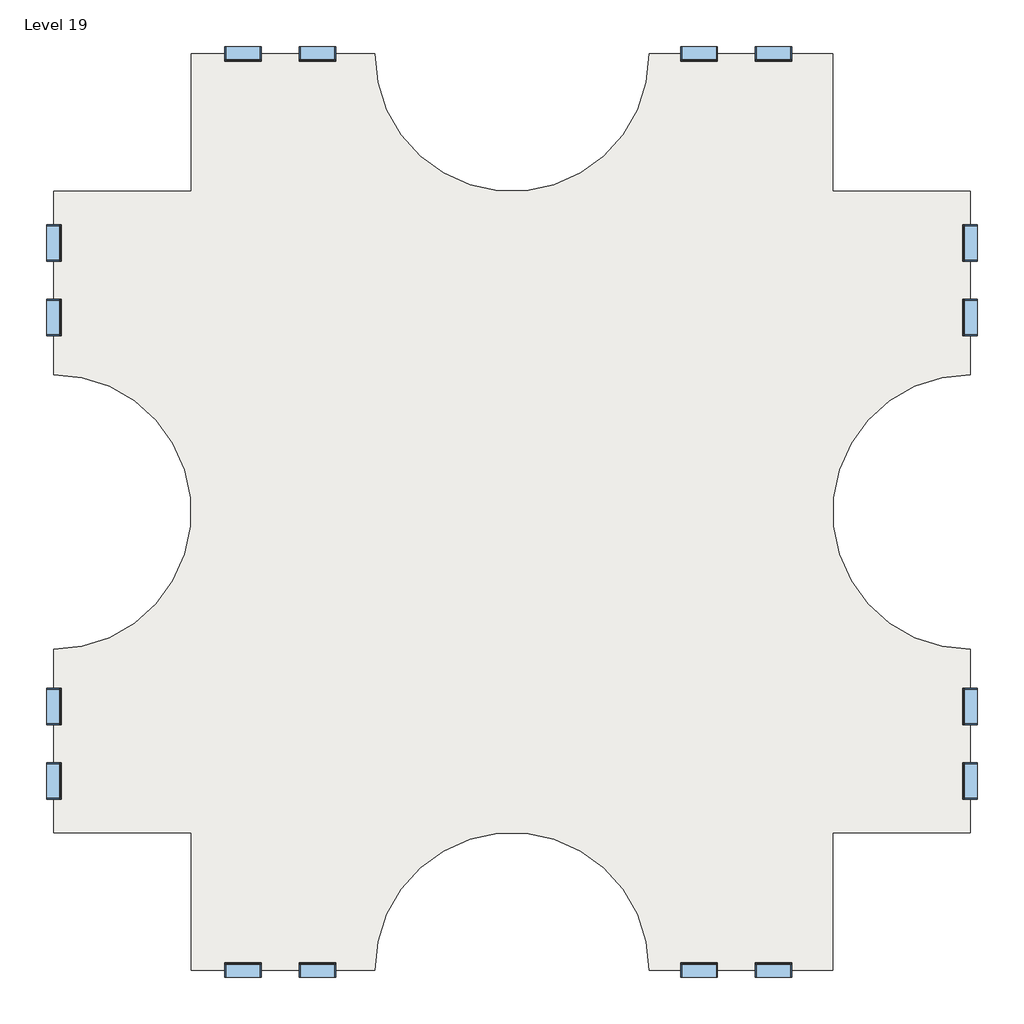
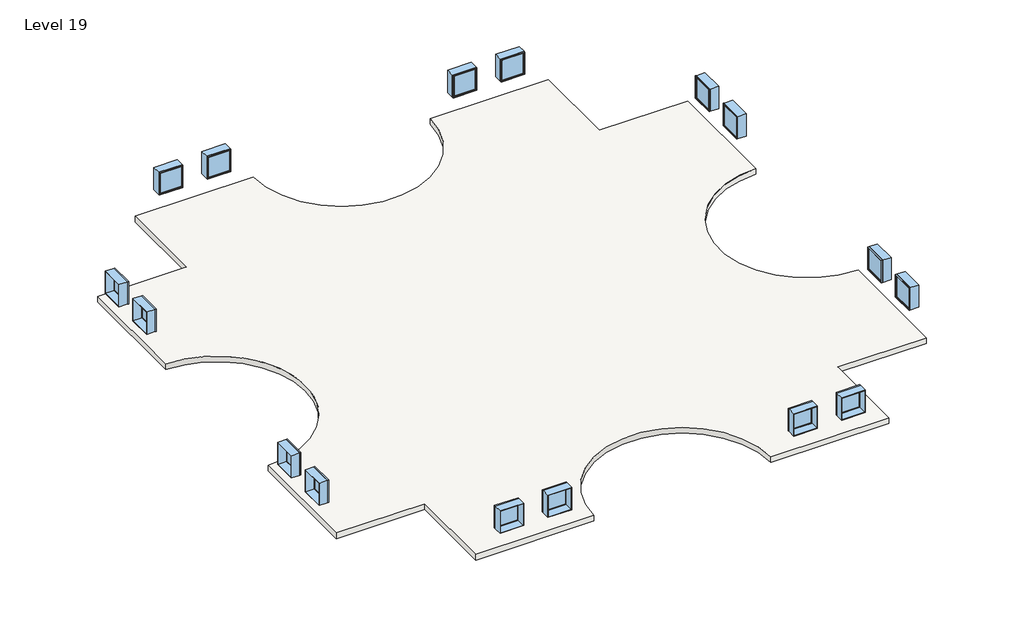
# One storey: 16 windows, 2 slabs.
"""IFC4 building model written with IfcOpenShell, lengths in millimetres."""

import ifcopenshell
import ifcopenshell.guid

model = None  # the IFC model being written
_history = None  # IfcOwnerHistory: only IFC2X3 demands one
_inside = {}  # id of a spatial element -> (the spatial element, [elements in it])
_under = {}  # id of a project, library or spatial element -> (it, [spatial elements below it])
_declared = {}  # id of a project -> (the project, [libraries it declares])
_typed = {}  # id of a type object -> (the type object, [elements of that type])
_made_of = {}  # id of a material, layer set ... -> (it, [elements and type objects made of it])


def new_model(schema):
    """Start an empty IFC model of exactly this schema.

    Asked for "IFC4X3", IfcOpenShell would pick the latest addendum, in which some entities
    have other attributes; the version numbers below select the first issue.
    IFC2X3 requires an IfcOwnerHistory on every rooted entity: one is made here for all.
    """
    global model, _history
    if schema == "IFC4X3":
        model = ifcopenshell.file(schema_version=(4, 3, 0, 0))
    else:
        model = ifcopenshell.file(schema=schema)
    _inside.clear()
    _under.clear()
    _declared.clear()
    _typed.clear()
    _made_of.clear()
    _history = None
    if model.schema == "IFC2X3":
        org = make("IfcOrganization", Name="unknown")
        user = make(
            "IfcPersonAndOrganization",
            ThePerson=make("IfcPerson", FamilyName="unknown"),
            TheOrganization=org,
        )
        app = make(
            "IfcApplication",
            ApplicationDeveloper=org,
            Version="unknown",
            ApplicationFullName="unknown",
            ApplicationIdentifier="unknown",
        )
        _history = make(
            "IfcOwnerHistory",
            OwningUser=user,
            OwningApplication=app,
            ChangeAction="ADDED",
            CreationDate=0,
        )
    return model


def make(cls, **values):
    """One entity of the class cls with the attributes given. An attribute that is None is left unset."""
    return model.create_entity(
        cls, **{name: value for name, value in values.items() if value is not None}
    )


def rooted(cls, **values):
    """An entity with a GlobalId (a new one), such as an element, a storey or a relation."""
    return make(cls, GlobalId=ifcopenshell.guid.new(), OwnerHistory=_history, **values)


def si_unit(unit_type, name, prefix=None):
    """IfcSIUnit, for example si_unit("LENGTHUNIT", "METRE", prefix="MILLI")."""
    return make("IfcSIUnit", UnitType=unit_type, Prefix=prefix, Name=name)


def assignment(units):
    """IfcUnitAssignment: the units of a project."""
    return None if units is None else make("IfcUnitAssignment", Units=units)


def point(xyz):
    """IfcCartesianPoint."""
    return None if xyz is None else make("IfcCartesianPoint", Coordinates=xyz)


def direction(xyz):
    """IfcDirection."""
    return None if xyz is None else make("IfcDirection", DirectionRatios=xyz)


def frame(location, z_axis=None, x_axis=None):
    """IfcAxis2Placement3D, a coordinate frame: its origin and axes. An axis left out is left unset."""
    return make(
        "IfcAxis2Placement3D",
        Location=point(location),
        Axis=direction(z_axis),
        RefDirection=direction(x_axis),
    )


def frame_2d(location, x_axis=None):
    """IfcAxis2Placement2D, a coordinate frame in the plane: its origin and x axis."""
    return make(
        "IfcAxis2Placement2D", Location=point(location), RefDirection=direction(x_axis)
    )


def origin():
    """The frame at (0, 0, 0) with its axes left unset."""
    return frame((0.0, 0.0, 0.0))


def place(relative_to, where):
    """IfcLocalPlacement: puts the frame where relative to a parent placement (None: the world)."""
    return make(
        "IfcLocalPlacement", PlacementRelTo=relative_to, RelativePlacement=where
    )


def context(
    kind, dimensions, precision=None, world=None, true_north=None, identifier=None
):
    """IfcGeometricRepresentationContext, for example the 3D "Model" context."""
    return make(
        "IfcGeometricRepresentationContext",
        ContextIdentifier=identifier,
        ContextType=kind,
        CoordinateSpaceDimension=dimensions,
        Precision=precision,
        WorldCoordinateSystem=world,
        TrueNorth=true_north,
    )


def project(units=None, contexts=None):
    """IfcProject with its units and contexts."""
    return rooted(
        "IfcProject",
        Name="project",
        RepresentationContexts=contexts,
        UnitsInContext=assignment(units),
    )


def spatial(cls, under=None, at=None, **own):
    """A site, building, storey or space (cls), placed at a placement, below another one or the project."""
    s = rooted(cls, ObjectPlacement=at, **own)
    if under is not None:
        _under.setdefault(under.id(), (under, []))[1].append(s)
    return s


def polyline(points):
    """IfcPolyline through the points."""
    return make("IfcPolyline", Points=[point(p) for p in points])


def circle_curve(where, radius):
    """IfcCircle in the frame where."""
    return make("IfcCircle", Position=where, Radius=radius)


def trimmed(basis, trim1, trim2, sense, master):
    """IfcTrimmedCurve: the piece of a basis curve between two trims."""
    return make(
        "IfcTrimmedCurve",
        BasisCurve=basis,
        Trim1=trim1,
        Trim2=trim2,
        SenseAgreement=sense,
        MasterRepresentation=master,
    )


def segment(curve, same_sense, transition):
    """IfcCompositeCurveSegment."""
    return make(
        "IfcCompositeCurveSegment",
        Transition=transition,
        SameSense=same_sense,
        ParentCurve=curve,
    )


def composite_curve(segments, self_intersect=None):
    """IfcCompositeCurve: segments joined end to end."""
    return make("IfcCompositeCurve", Segments=segments, SelfIntersect=self_intersect)


def outline(outer, holes=None, kind="AREA"):
    """IfcArbitraryClosedProfileDef: a profile drawn as a closed curve; with holes, ...WithVoids."""
    if holes is None:
        return make("IfcArbitraryClosedProfileDef", ProfileType=kind, OuterCurve=outer)
    return make(
        "IfcArbitraryProfileDefWithVoids",
        ProfileType=kind,
        OuterCurve=outer,
        InnerCurves=holes,
    )


def extrude(swept, where, along, depth):
    """IfcExtrudedAreaSolid: the profile swept, set in the frame where, extruded along a direction by depth."""
    return make(
        "IfcExtrudedAreaSolid",
        SweptArea=swept,
        Position=where,
        ExtrudedDirection=direction(along),
        Depth=depth,
    )


def shape(context_of_items, identifier, shape_type, items):
    """IfcShapeRepresentation: the items that make up one representation, for example the "Body"."""
    return make(
        "IfcShapeRepresentation",
        ContextOfItems=context_of_items,
        RepresentationIdentifier=identifier,
        RepresentationType=shape_type,
        Items=items,
    )


def source(mapping_origin, context_of_items, identifier, shape_type, items):
    """IfcRepresentationMap: a shape defined once, which mapped items show again and again."""
    return make(
        "IfcRepresentationMap",
        MappingOrigin=mapping_origin,
        MappedRepresentation=shape(context_of_items, identifier, shape_type, items),
    )


def transform(
    local_origin,
    x_axis=None,
    y_axis=None,
    z_axis=None,
    scale=None,
    scale2=None,
    scale3=None,
    uniform=True,
):
    """IfcCartesianTransformationOperator3D, or its non-uniform kind. x_axis, y_axis, z_axis: its Axis1, 2, 3."""
    if uniform:
        return make(
            "IfcCartesianTransformationOperator3D",
            Axis1=direction(x_axis),
            Axis2=direction(y_axis),
            LocalOrigin=point(local_origin),
            Scale=scale,
            Axis3=direction(z_axis),
        )
    return make(
        "IfcCartesianTransformationOperator3DnonUniform",
        Axis1=direction(x_axis),
        Axis2=direction(y_axis),
        LocalOrigin=point(local_origin),
        Scale=scale,
        Axis3=direction(z_axis),
        Scale2=scale2,
        Scale3=scale3,
    )


def mapped(mapping_source, mapping_target):
    """IfcMappedItem: shows the shape of a source again, moved by a transform."""
    return make(
        "IfcMappedItem", MappingSource=mapping_source, MappingTarget=mapping_target
    )


def made_of(thing, what):
    """Note that an element or type object is made of a material, layer set ...; save() writes the relation."""
    if what is not None:
        _made_of.setdefault(what.id(), (what, []))[1].append(thing)
    return thing


def element(
    cls,
    number,
    at=None,
    inside=None,
    cuts=None,
    type_object=None,
    material=None,
    context=None,
    identifier="Body",
    shape_type=None,
    held_by="IfcProductDefinitionShape",
    body=None,
    shapes=None,
    **own,
):
    """One element of the class cls, such as IfcWall. Its Tag is "e" and its number.

    at: its placement. inside: the storey or other place that contains it. cuts: it is an
    opening in that element (IfcRelVoidsElement). A single representation is given by context,
    identifier, shape_type and body (its items); several are given by shapes. held_by: the class
    of the entity that holds the representations. save() writes the other relations.
    """
    e = rooted(cls, Tag="e%d" % number, ObjectPlacement=at, **own)
    if body is not None:
        shapes = [shape(context, identifier, shape_type, body)]
    if shapes is not None:
        e.Representation = make(held_by, Representations=shapes)
    if inside is not None:
        _inside.setdefault(inside.id(), (inside, []))[1].append(e)
    if cuts is not None:
        rooted(
            "IfcRelVoidsElement", RelatingBuildingElement=cuts, RelatedOpeningElement=e
        )
    if type_object is not None:
        _typed.setdefault(type_object.id(), (type_object, []))[1].append(e)
    return made_of(e, material)


def aggregate(whole, parts):
    """IfcRelAggregates: a whole, such as a stair, and the parts it consists of."""
    return rooted("IfcRelAggregates", RelatingObject=whole, RelatedObjects=parts)


def save(model, path):
    """Write the relations noted so far, then the file.

    IfcRelAggregates (storeys below a building ...), IfcRelContainedInSpatialStructure (elements
    in a storey), IfcRelDefinesByType, IfcRelAssociatesMaterial and IfcRelDeclares: one each for
    every whole, place, type object, material and project.
    """
    for whole, parts in _under.values():
        aggregate(whole, parts)
    for where, things in _inside.values():
        rooted(
            "IfcRelContainedInSpatialStructure",
            RelatedElements=things,
            RelatingStructure=where,
        )
    for kind, things in _typed.values():
        rooted("IfcRelDefinesByType", RelatedObjects=things, RelatingType=kind)
    for what, things in _made_of.values():
        rooted("IfcRelAssociatesMaterial", RelatedObjects=things, RelatingMaterial=what)
    for by, libraries in _declared.values():
        rooted("IfcRelDeclares", RelatingContext=by, RelatedDefinitions=libraries)
    model.write(path)


def window_d0035ecf(model_context):
    return source(origin(), model_context, "Body", "SweptSolid", [
        extrude(outline(polyline([(508.0, 200.025), (-584.2, 200.025), (-584.2, 212.725), (508.0, 212.725), (508.0, 200.025)])), frame((0.0, 0.0, 977.9), z_axis=(0.0, 0.0, 1.0), x_axis=(1.0, 0.0, 0.0)), (0.0, 0.0, 1.0), 1092.2),
        extrude(outline(polyline([(2114.55, -628.65), (933.45, -628.65), (933.45, 552.45), (2114.55, 552.45), (2114.55, -628.65)]), holes=[polyline([(2070.1, -584.2), (2070.1, 508.0), (977.9, 508.0), (977.9, -584.2), (2070.1, -584.2)])]), frame((0.0, 184.15, 0.0), z_axis=(0.0, 1.0, 0.0), x_axis=(0.0, 0.0, 1.0)), (0.0, 0.0, 1.0), 44.45),
        extrude(outline(polyline([(2133.6, -647.7), (914.4, -647.7), (914.4, 571.5), (2133.6, 571.5), (2133.6, -647.7)]), holes=[polyline([(2101.85, -615.95), (2101.85, 539.75), (946.15, 539.75), (946.15, -615.95), (2101.85, -615.95)])]), frame((0.0, -247.65, 0.0), z_axis=(0.0, 1.0, 0.0), x_axis=(0.0, 0.0, 1.0)), (0.0, 0.0, 1.0), 431.8),
        extrude(outline(polyline([(2133.6, 571.5), (2133.6, -647.7), (914.4, -647.7), (914.4, 571.5), (2133.6, 571.5)]), holes=[polyline([(2114.55, 552.45), (933.45, 552.45), (933.45, -628.65), (2114.55, -628.65), (2114.55, 552.45)])]), frame((0.0, 184.15, 0.0), z_axis=(0.0, 1.0, 0.0), x_axis=(0.0, 0.0, 1.0)), (0.0, 0.0, 1.0), 63.5),
    ])


def window_d434eb62(model_context):
    return source(origin(), model_context, "Body", "SweptSolid", [
        extrude(outline(polyline([(508.0, -200.025), (508.0, -212.725), (-584.2, -212.725), (-584.2, -200.025), (508.0, -200.025)])), frame((0.0, 0.0, 977.9), z_axis=(0.0, 0.0, 1.0), x_axis=(1.0, 0.0, 0.0)), (0.0, 0.0, 1.0), 1092.2),
        extrude(outline(polyline([(2114.55, -628.65), (933.45, -628.65), (933.45, 552.45), (2114.55, 552.45), (2114.55, -628.65)]), holes=[polyline([(2070.1, -584.2), (2070.1, 508.0), (977.9, 508.0), (977.9, -584.2), (2070.1, -584.2)])]), frame((0.0, -228.6, 0.0), z_axis=(0.0, 1.0, 0.0), x_axis=(0.0, 0.0, 1.0)), (0.0, 0.0, 1.0), 44.45),
        extrude(outline(polyline([(2133.6, -647.7), (914.4, -647.7), (914.4, 571.5), (2133.6, 571.5), (2133.6, -647.7)]), holes=[polyline([(2101.85, -615.95), (2101.85, 539.75), (946.15, 539.75), (946.15, -615.95), (2101.85, -615.95)])]), frame((0.0, -184.15, 0.0), z_axis=(0.0, 1.0, 0.0), x_axis=(0.0, 0.0, 1.0)), (0.0, 0.0, 1.0), 431.8),
        extrude(outline(polyline([(2133.6, 571.5), (2133.6, -647.7), (914.4, -647.7), (914.4, 571.5), (2133.6, 571.5)]), holes=[polyline([(2114.55, 552.45), (933.45, 552.45), (933.45, -628.65), (2114.55, -628.65), (2114.55, 552.45)])]), frame((0.0, -247.65, 0.0), z_axis=(0.0, 1.0, 0.0), x_axis=(0.0, 0.0, 1.0)), (0.0, 0.0, 1.0), 63.5),
    ])


model = new_model("IFC4")

# Units and contexts
model_context = context("Model", 3, world=origin())
ifc_project = project(units=[si_unit("LENGTHUNIT", "METRE", prefix="MILLI")], contexts=[model_context])

# Site, building, storey
site = spatial("IfcSite", under=ifc_project)
building = spatial("IfcBuilding", under=site)
storey = spatial("IfcBuildingStorey", under=building, Name="Level 19", Elevation=54864.0)

# Slabs
placement = place(None, origin())
element("IfcSlab", 1, ObjectType="Generic - 12\"", at=placement, inside=storey, context=model_context, shape_type="SweptSolid", body=[
    extrude(outline(composite_curve([segment(polyline([(-7150.3629456, 4479.6634547), (-7150.3629456, 9051.6634547), (-1054.3629456, 9051.6634547)]), True, "CONTINUOUS"), segment(trimmed(circle_curve(frame_2d((3517.6370544, 9051.6634547)), 4572.0), [point((-1054.3629456, 9051.6634547))], [point((8089.6370544, 9051.6634547))], True, "CARTESIAN"), True, "CONTINUOUS"), segment(polyline([(8089.6370544, 9051.6634547), (14185.6370544, 9051.6634547), (14185.6370544, 4479.6634547), (18757.6370544, 4479.6634547), (18757.6370544, -1616.3365453)]), True, "CONTINUOUS"), segment(trimmed(circle_curve(frame_2d((18757.6370544, -6188.3365453)), 4572.0), [point((18757.6370544, -1616.3365453))], [point((18757.6370544, -10760.3365453))], True, "CARTESIAN"), True, "CONTINUOUS"), segment(polyline([(18757.6370544, -10760.3365453), (18757.6370544, -16856.3365453), (14185.6370544, -16856.3365453), (14185.6370544, -21428.3365453), (8089.6370544, -21428.3365453)]), True, "CONTINUOUS"), segment(trimmed(circle_curve(frame_2d((3517.6370544, -21428.3365453)), 4572.0), [point((8089.6370544, -21428.3365453))], [point((-1054.3629456, -21428.3365453))], True, "CARTESIAN"), True, "CONTINUOUS"), segment(polyline([(-1054.3629456, -21428.3365453), (-7150.3629456, -21428.3365453), (-7150.3629456, -16856.3365453), (-11722.3629456, -16856.3365453), (-11722.3629456, -10760.3365453)]), True, "CONTINUOUS"), segment(trimmed(circle_curve(frame_2d((-11722.3629456, -6188.3365453)), 4572.0), [point((-11722.3629456, -10760.3365453))], [point((-11722.3629456, -1616.3365453))], True, "CARTESIAN"), True, "CONTINUOUS"), segment(polyline([(-11722.3629456, -1616.3365453), (-11722.3629456, 4479.6634547), (-7150.3629456, 4479.6634547)]), True, "CONTINUOUS")], self_intersect=False)), frame((0.0, 0.0, 54559.2), z_axis=(0.0, 0.0, 1.0), x_axis=(1.0, 0.0, 0.0)), (0.0, 0.0, 1.0), 304.8),
])
element("IfcSlab", 2, ObjectType="Generic - 12\"", at=placement, inside=storey, context=model_context, shape_type="SweptSolid", body=[
    extrude(outline(composite_curve([segment(polyline([(-7150.3629456, 4479.6634547), (-7150.3629456, 9051.6634547), (-1054.3629456, 9051.6634547)]), True, "CONTINUOUS"), segment(trimmed(circle_curve(frame_2d((3517.6370544, 9051.6634547)), 4572.0), [point((-1054.3629456, 9051.6634547))], [point((8089.6370544, 9051.6634547))], True, "CARTESIAN"), True, "CONTINUOUS"), segment(polyline([(8089.6370544, 9051.6634547), (14185.6370544, 9051.6634547), (14185.6370544, 4479.6634547), (18757.6370544, 4479.6634547), (18757.6370544, -1616.3365453)]), True, "CONTINUOUS"), segment(trimmed(circle_curve(frame_2d((18757.6370544, -6188.3365453)), 4572.0), [point((18757.6370544, -1616.3365453))], [point((18757.6370544, -10760.3365453))], True, "CARTESIAN"), True, "CONTINUOUS"), segment(polyline([(18757.6370544, -10760.3365453), (18757.6370544, -16856.3365453), (14185.6370544, -16856.3365453), (14185.6370544, -21428.3365453), (8089.6370544, -21428.3365453)]), True, "CONTINUOUS"), segment(trimmed(circle_curve(frame_2d((3517.6370544, -21428.3365453)), 4572.0), [point((8089.6370544, -21428.3365453))], [point((-1054.3629456, -21428.3365453))], True, "CARTESIAN"), True, "CONTINUOUS"), segment(polyline([(-1054.3629456, -21428.3365453), (-7150.3629456, -21428.3365453), (-7150.3629456, -16856.3365453), (-11722.3629456, -16856.3365453), (-11722.3629456, -10760.3365453)]), True, "CONTINUOUS"), segment(trimmed(circle_curve(frame_2d((-11722.3629456, -6188.3365453)), 4572.0), [point((-11722.3629456, -10760.3365453))], [point((-11722.3629456, -1616.3365453))], True, "CARTESIAN"), True, "CONTINUOUS"), segment(polyline([(-11722.3629456, -1616.3365453), (-11722.3629456, 4479.6634547), (-7150.3629456, 4479.6634547)]), True, "CONTINUOUS")], self_intersect=False)), frame((0.0, 0.0, 54559.2), z_axis=(0.0, 0.0, 1.0), x_axis=(1.0, 0.0, 0.0)), (0.0, 0.0, 1.0), 304.8),
])

# Windows
window_shape = window_d0035ecf(model_context)
element("IfcWindow", 3, ObjectType="Fixed : 48\" x 48\"", at=placement, inside=storey, context=model_context, shape_type="MappedRepresentation", body=[
    mapped(window_shape, transform((-11719.1879456, 247.3884547, 54864.0), x_axis=(0.0, -1.0, 0.0), y_axis=(1.0, 0.0, 0.0), z_axis=(0.0, 0.0, 1.0))),
])
element("IfcWindow", 4, ObjectType="Fixed : 48\" x 48\"", at=placement, inside=storey, context=model_context, shape_type="MappedRepresentation", body=[
    mapped(window_shape, transform((-5469.1993281, 9048.4884547, 54864.0), x_axis=(-1.0, 0.0, 0.0), y_axis=(0.0, -1.0, 0.0), z_axis=(0.0, 0.0, 1.0))),
])
element("IfcWindow", 5, ObjectType="Fixed : 48\" x 48\"", at=placement, inside=storey, context=model_context, shape_type="MappedRepresentation", body=[
    mapped(window_shape, transform((-11719.1879456, -15175.1729277, 54864.0), x_axis=(0.0, -1.0, 0.0), y_axis=(1.0, 0.0, 0.0), z_axis=(0.0, 0.0, 1.0))),
])
element("IfcWindow", 6, ObjectType="Fixed : 48\" x 48\"", at=placement, inside=storey, context=model_context, shape_type="MappedRepresentation", body=[
    mapped(window_shape, transform((-2918.0879456, -21425.1615453, 54864.0), x_axis=(1.0, 0.0, 0.0), y_axis=(0.0, 1.0, 0.0), z_axis=(0.0, 0.0, 1.0))),
])
element("IfcWindow", 7, ObjectType="Fixed : 48\" x 48\"", at=placement, inside=storey, context=model_context, shape_type="MappedRepresentation", body=[
    mapped(window_shape, transform((18754.4620544, 2798.4998372, 54864.0), x_axis=(0.0, 1.0, 0.0), y_axis=(-1.0, 0.0, 0.0), z_axis=(0.0, 0.0, 1.0))),
])
element("IfcWindow", 8, ObjectType="Fixed : 48\" x 48\"", at=placement, inside=storey, context=model_context, shape_type="MappedRepresentation", body=[
    mapped(window_shape, transform((9705.7120544, 9048.4884547, 54864.0), x_axis=(-1.0, 0.0, 0.0), y_axis=(0.0, -1.0, 0.0), z_axis=(0.0, 0.0, 1.0))),
])
element("IfcWindow", 9, ObjectType="Fixed : 48\" x 48\"", at=placement, inside=storey, context=model_context, shape_type="MappedRepresentation", body=[
    mapped(window_shape, transform((18754.4620544, -12624.0615453, 54864.0), x_axis=(0.0, 1.0, 0.0), y_axis=(-1.0, 0.0, 0.0), z_axis=(0.0, 0.0, 1.0))),
])
element("IfcWindow", 10, ObjectType="Fixed : 48\" x 48\"", at=placement, inside=storey, context=model_context, shape_type="MappedRepresentation", body=[
    mapped(window_shape, transform((12256.8234368, -21425.1615453, 54864.0), x_axis=(1.0, 0.0, 0.0), y_axis=(0.0, 1.0, 0.0), z_axis=(0.0, 0.0, 1.0))),
])
window_2_shape = window_d434eb62(model_context)
element("IfcWindow", 11, ObjectType="Fixed : 48\" x 48\"", at=placement, inside=storey, context=model_context, shape_type="MappedRepresentation", body=[
    mapped(window_2_shape, transform((-11719.1879456, 2798.4998372, 54864.0), x_axis=(0.0, 1.0, 0.0), y_axis=(-1.0, 0.0, 0.0), z_axis=(0.0, 0.0, 1.0))),
])
element("IfcWindow", 12, ObjectType="Fixed : 48\" x 48\"", at=placement, inside=storey, context=model_context, shape_type="MappedRepresentation", body=[
    mapped(window_2_shape, transform((-2918.0879456, 9048.4884547, 54864.0), x_axis=(1.0, 0.0, 0.0), y_axis=(0.0, 1.0, 0.0), z_axis=(0.0, 0.0, 1.0))),
])
element("IfcWindow", 13, ObjectType="Fixed : 48\" x 48\"", at=placement, inside=storey, context=model_context, shape_type="MappedRepresentation", body=[
    mapped(window_2_shape, transform((-11719.1879456, -12624.0615453, 54864.0), x_axis=(0.0, 1.0, 0.0), y_axis=(-1.0, 0.0, 0.0), z_axis=(0.0, 0.0, 1.0))),
])
element("IfcWindow", 14, ObjectType="Fixed : 48\" x 48\"", at=placement, inside=storey, context=model_context, shape_type="MappedRepresentation", body=[
    mapped(window_2_shape, transform((-5469.1993281, -21425.1615453, 54864.0), x_axis=(-1.0, 0.0, 0.0), y_axis=(0.0, -1.0, 0.0), z_axis=(0.0, 0.0, 1.0))),
])
element("IfcWindow", 15, ObjectType="Fixed : 48\" x 48\"", at=placement, inside=storey, context=model_context, shape_type="MappedRepresentation", body=[
    mapped(window_2_shape, transform((18754.4620544, 247.3884547, 54864.0), x_axis=(0.0, -1.0, 0.0), y_axis=(1.0, 0.0, 0.0), z_axis=(0.0, 0.0, 1.0))),
])
element("IfcWindow", 16, ObjectType="Fixed : 48\" x 48\"", at=placement, inside=storey, context=model_context, shape_type="MappedRepresentation", body=[
    mapped(window_2_shape, transform((12256.8234368, 9048.4884547, 54864.0), x_axis=(1.0, 0.0, 0.0), y_axis=(0.0, 1.0, 0.0), z_axis=(0.0, 0.0, 1.0))),
])
element("IfcWindow", 17, ObjectType="Fixed : 48\" x 48\"", at=placement, inside=storey, context=model_context, shape_type="MappedRepresentation", body=[
    mapped(window_2_shape, transform((18754.4620544, -15175.1729277, 54864.0), x_axis=(0.0, -1.0, 0.0), y_axis=(1.0, 0.0, 0.0), z_axis=(0.0, 0.0, 1.0))),
])
element("IfcWindow", 18, ObjectType="Fixed : 48\" x 48\"", at=placement, inside=storey, context=model_context, shape_type="MappedRepresentation", body=[
    mapped(window_2_shape, transform((9705.7120544, -21425.1615453, 54864.0), x_axis=(-1.0, 0.0, 0.0), y_axis=(0.0, -1.0, 0.0), z_axis=(0.0, 0.0, 1.0))),
])

save(model, "model.ifc")
